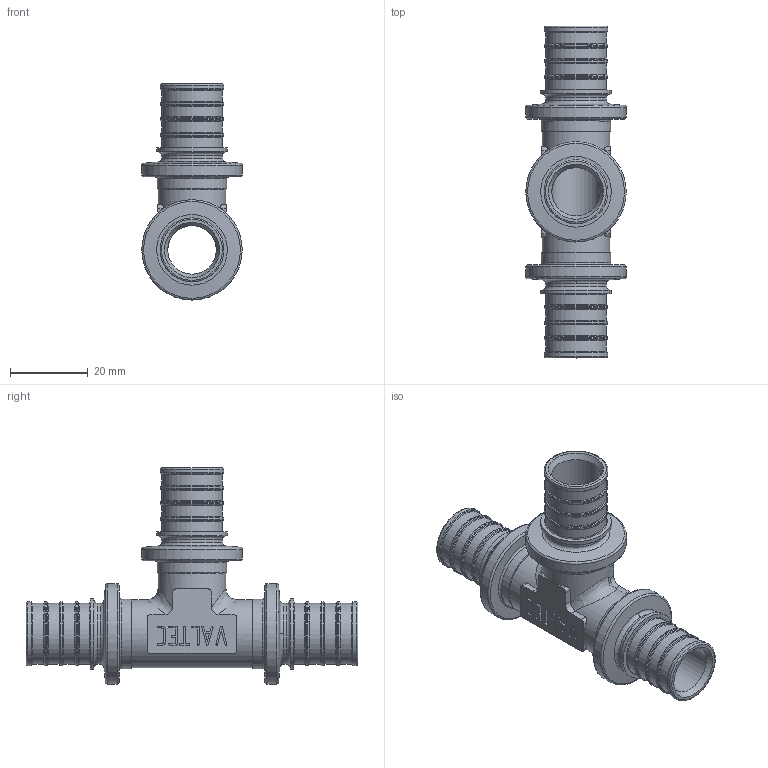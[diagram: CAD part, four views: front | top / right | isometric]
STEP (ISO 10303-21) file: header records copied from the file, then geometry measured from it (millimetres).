
FILE_DESCRIPTION(('STEP AP203'), '1');
FILE_NAME('覆.752241.002 - VTm.431.G.202020 秮鍣. 縺鳱', '', ('UNSPECIFIED'), ('UNSPECIFIED'), 'C3D Converter', 'C3D Toolkit', '');
FILE_SCHEMA(('CONFIG_CONTROL_DESIGN'));
Length unit declared in the file: millimetre
Products named in the file (1): ВР.752241.002
Bounding box: 25.9 x 85.6 x 55.75 mm (x, y, z)
Volume: 15139.2 mm3; surface area: 13747.2 mm2
Topology: 1 solids, 1 shells, 481 faces, 1271 edges, 817 vertices
Faces by surface type: extrusion 202, plane 148, torus 64, cylinder 56, cone 9, bspline 2
Full cylindrical faces by diameter (mm): 12.5 x2, 15.7 x15, 16.5 x12, 17.5 x2, 17.9 x3, 18.2 x3, 25.9 x3
Entity records: 19218 total; most frequent: CARTESIAN_POINT 4635, ORIENTED_EDGE 2316, DIRECTION 1635, EDGE_CURVE 1158, VERTEX_POINT 817, VECTOR 765, B_SPLINE_CURVE_WITH_KNOTS 637, EDGE_LOOP 623
